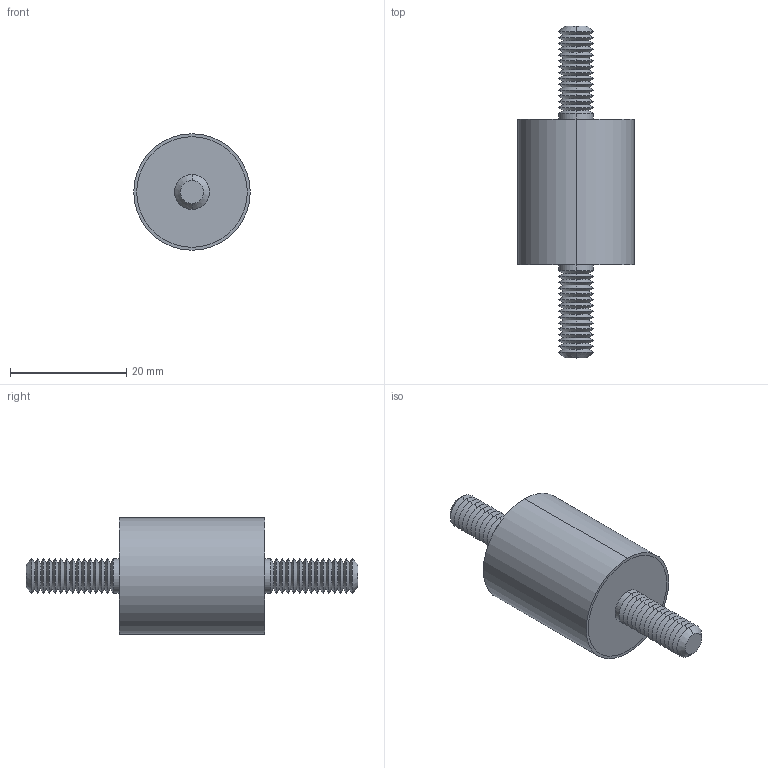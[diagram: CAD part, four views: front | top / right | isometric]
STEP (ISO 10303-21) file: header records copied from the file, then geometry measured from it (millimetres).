
FILE_DESCRIPTION (( 'STEP AP203' ), '1' );
FILE_NAME ('61040.W0206.step', '2019-09-24T22:31:02', ( '' ), ( '' ), 'SwSTEP 2.0', 'SolidWorks 2017', '' );
FILE_SCHEMA (( 'CONFIG_CONTROL_DESIGN' ));
Length unit declared in the file: millimetre
Products named in the file (4): Part3_61040.W0206; 61040.W0206; Part1_61040.W0206; Part2_61040.W0206
Assembly tree (3 placements, depth 2):
  61040.W0206
    Part1_61040.W0206
    Part2_61040.W0206
    Part3_61040.W0206
Bounding box: 20 x 57 x 20 mm (x, y, z)
Volume: 8535.5 mm3; surface area: 4525.9 mm2
Topology: 3 solids, 3 shells, 140 faces, 274 edges, 144 vertices
Faces by surface type: cone 116, cylinder 14, plane 10
Entity records: 3908 total; most frequent: DIRECTION 710, CARTESIAN_POINT 564, ORIENTED_EDGE 548, AXIS2_PLACEMENT_3D 290, EDGE_CURVE 274, EDGE_LOOP 144, CIRCLE 144, VERTEX_POINT 144
